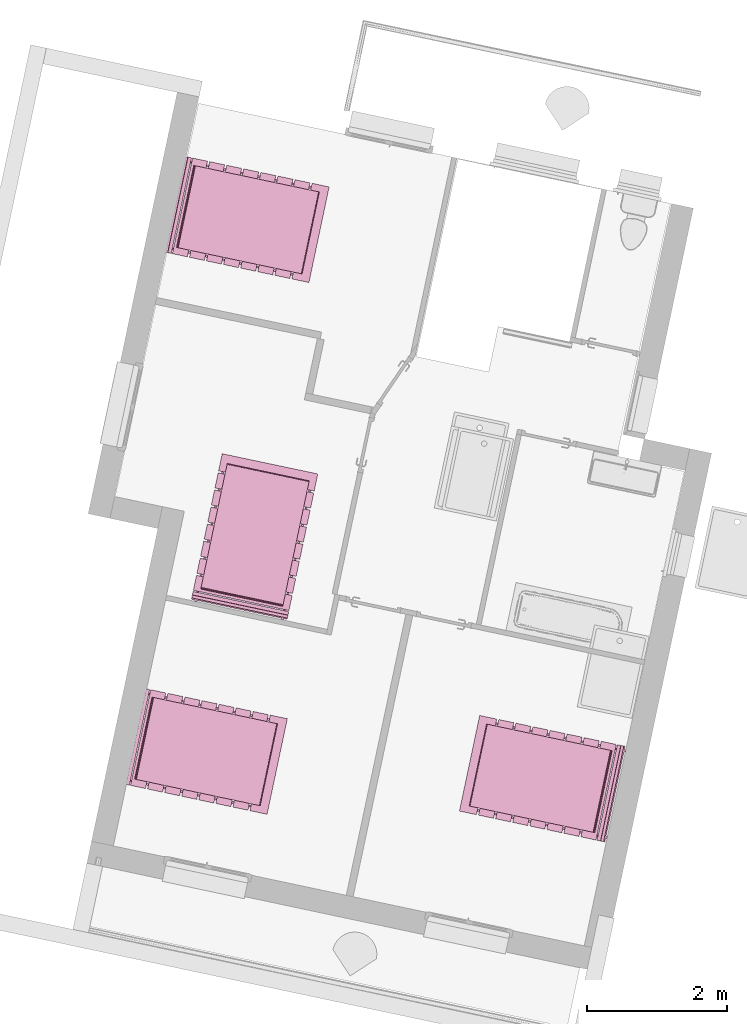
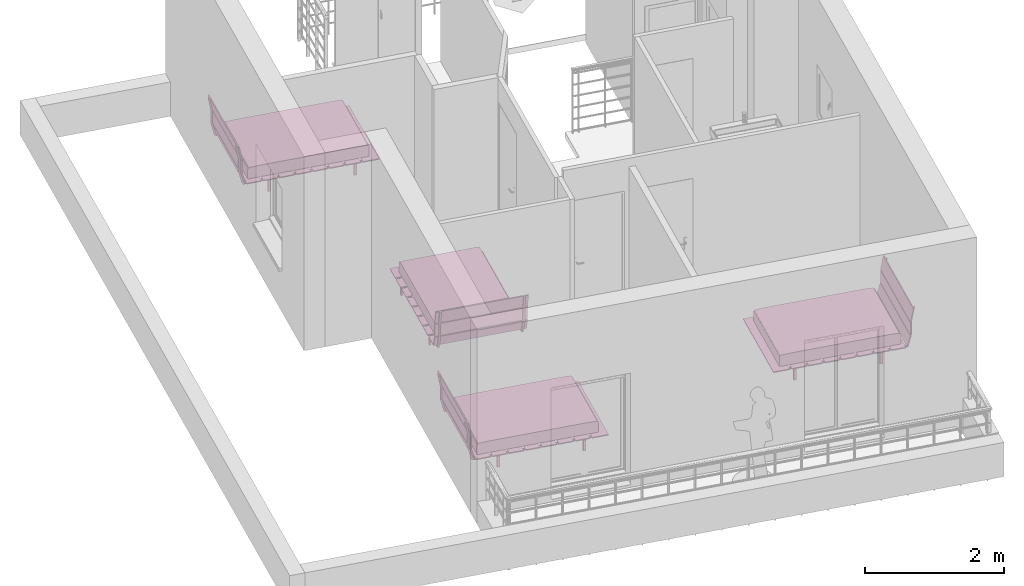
# One storey, part 17 of 18: 4 furnishings.
"""IFC2X3 building model written with IfcOpenShell, lengths in metres."""

from ifc_helpers import new_model, entity, si_unit, converted_unit, derived_unit, direction, frame, frame_2d, origin, origin_2d_with_axis, place, context, subcontext, project, spatial, polyline, circle_curve, parameter, trimmed, segment, composite_curve, rectangle, outline, extrude, source, transform, mapped, material, material_list, type_object, type_shapes, element, save


model = new_model("IFC2X3")

# Units and contexts
model_context = context("Model", 3, precision=1e-05, world=origin(), true_north=direction((6.12303176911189e-17, 1.0)))
body_context = subcontext(model_context, "Body", "Model", "MODEL_VIEW")
ifc_project = project(units=[si_unit("LENGTHUNIT", "METRE"), si_unit("AREAUNIT", "SQUARE_METRE"), si_unit("VOLUMEUNIT", "CUBIC_METRE"), converted_unit("PLANEANGLEUNIT", "DEGREE", entity("IfcRatioMeasure", 0.0174532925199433), si_unit("PLANEANGLEUNIT", "RADIAN"), dimensions=[0, 0, 0, 0, 0, 0, 0]), si_unit("MASSUNIT", "GRAM", prefix="KILO"), derived_unit("MASSDENSITYUNIT", [(si_unit("MASSUNIT", "GRAM", prefix="KILO"), 1), (si_unit("LENGTHUNIT", "METRE"), -3)]), si_unit("TIMEUNIT", "SECOND"), si_unit("FREQUENCYUNIT", "HERTZ"), si_unit("THERMODYNAMICTEMPERATUREUNIT", "DEGREE_CELSIUS"), derived_unit("THERMALTRANSMITTANCEUNIT", [(si_unit("MASSUNIT", "GRAM", prefix="KILO"), 1), (si_unit("THERMODYNAMICTEMPERATUREUNIT", "KELVIN"), -1), (si_unit("TIMEUNIT", "SECOND"), -3)]), derived_unit("VOLUMETRICFLOWRATEUNIT", [(si_unit("LENGTHUNIT", "METRE"), 3), (si_unit("TIMEUNIT", "SECOND"), -1)]), si_unit("ELECTRICCURRENTUNIT", "AMPERE"), si_unit("ELECTRICVOLTAGEUNIT", "VOLT"), si_unit("POWERUNIT", "WATT"), si_unit("FORCEUNIT", "NEWTON", prefix="KILO"), si_unit("ILLUMINANCEUNIT", "LUX"), si_unit("LUMINOUSFLUXUNIT", "LUMEN"), si_unit("LUMINOUSINTENSITYUNIT", "CANDELA"), derived_unit("USERDEFINED", [(si_unit("MASSUNIT", "GRAM", prefix="KILO"), -1), (si_unit("LENGTHUNIT", "METRE"), -2), (si_unit("TIMEUNIT", "SECOND"), 3), (si_unit("LUMINOUSFLUXUNIT", "LUMEN"), 1)]), derived_unit("LINEARVELOCITYUNIT", [(si_unit("LENGTHUNIT", "METRE"), 1), (si_unit("TIMEUNIT", "SECOND"), -1)]), si_unit("PRESSUREUNIT", "PASCAL"), derived_unit("USERDEFINED", [(si_unit("LENGTHUNIT", "METRE"), -2), (si_unit("MASSUNIT", "GRAM", prefix="KILO"), 1), (si_unit("TIMEUNIT", "SECOND"), -2)])], contexts=[model_context])

# Site, building, storey, space
site_placement = place(None, origin())
site = spatial("IfcSite", under=ifc_project, at=site_placement, Name="Default", CompositionType="ELEMENT")
building_placement = place(site_placement, origin())
building = spatial("IfcBuilding", under=site, at=building_placement, CompositionType="ELEMENT")
storey_placement = place(building_placement, frame((0.0, 0.0, 2.8)))
storey = spatial("IfcBuildingStorey", under=building, at=storey_placement, Name="ETAGE", CompositionType="ELEMENT", Elevation=2.8)
space_1_placement = place(storey_placement, origin())
space_1 = spatial("IfcSpace", under=storey, at=space_1_placement, Name="639", CompositionType="ELEMENT", InteriorOrExteriorSpace="INTERNAL")

# Furnishing
ifc_material_1 = material(Name="Textile - Bleu pâle")
ifc_material_2 = material(Name="Bois - Teck")
ifc_material_3 = material(Name="Plastique - Noir")
ifc_material_list_1 = material_list([ifc_material_1, ifc_material_2, ifc_material_3])
ifc_material_list_2 = material_list([ifc_material_1, ifc_material_2, ifc_material_3])
furniture_type = type_object("IfcFurnitureType", Name="1,40 mm x 2000 mm 2", material=ifc_material_list_2)
shared_shape = source(origin(), body_context, "Body", "SweptSolid", [
    extrude(outline(composite_curve([segment(polyline([(-0.755361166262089, -0.0846796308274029), (0.695178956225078, -0.0846796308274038)]), True, "CONTINUOUS"), segment(polyline([(0.695178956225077, -0.0846796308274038), (0.816394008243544, -0.078623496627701)]), True, "CONTINUOUS"), segment(polyline([(0.816394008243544, -0.078623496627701), (0.842657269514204, -0.0725673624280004)]), True, "CONTINUOUS"), segment(polyline([(0.842657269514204, -0.0725673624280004), (0.856799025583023, -0.0624738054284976)]), True, "CONTINUOUS"), segment(polyline([(0.856799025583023, -0.0624738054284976), (0.862859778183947, -0.0443054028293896)]), True, "CONTINUOUS"), segment(polyline([(0.862859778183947, -0.0443054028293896), (0.866900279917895, -0.0120060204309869)]), True, "CONTINUOUS"), segment(polyline([(0.866900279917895, -0.0120060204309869), (0.866900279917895, 0.0747985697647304)]), True, "CONTINUOUS"), segment(polyline([(0.866900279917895, 0.0747985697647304), (0.862859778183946, 0.105079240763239)]), True, "CONTINUOUS"), segment(polyline([(0.862859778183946, 0.105079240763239), (0.856799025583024, 0.113154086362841)]), True, "CONTINUOUS"), segment(polyline([(0.856799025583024, 0.113154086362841), (0.836596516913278, 0.117191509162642)]), True, "CONTINUOUS"), segment(polyline([(0.836596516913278, 0.117191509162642), (-0.953345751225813, 0.117191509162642)]), True, "CONTINUOUS"), segment(polyline([(-0.953345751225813, 0.117191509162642), (-0.969507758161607, 0.115172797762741)]), True, "CONTINUOUS"), segment(polyline([(-0.969507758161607, 0.115172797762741), (-0.971528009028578, 0.103060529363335)]), True, "CONTINUOUS"), segment(polyline([(-0.971528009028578, 0.103060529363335), (-0.971528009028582, -0.0160434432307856)]), True, "CONTINUOUS"), segment(trimmed(circle_curve(frame_2d((-0.76779044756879, -0.0160434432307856), x_axis=(-1.0, 0.0)), 0.203737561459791), [parameter(360.0)], [parameter(11.4298384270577)], True, "PARAMETER"), True, "CONTINUOUS"), segment(trimmed(circle_curve(frame_2d((-0.944467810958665, -0.0517636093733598), x_axis=(-1.0, 0.0)), 0.0234854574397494), [parameter(11.4298384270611)], [parameter(62.3518913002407)], True, "PARAMETER"), True, "CONTINUOUS"), segment(trimmed(circle_curve(frame_2d((-0.929629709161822, -0.0234388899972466), x_axis=(-1.0, 0.0)), 0.0554613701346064), [parameter(62.35189130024)], [parameter(84.2736549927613)], True, "PARAMETER"), True, "CONTINUOUS"), segment(trimmed(circle_curve(frame_2d((-0.809859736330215, 1.1709442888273), x_axis=(-1.0, 0.0)), 1.25583465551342), [parameter(84.2736549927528)], [parameter(86.5854437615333)], True, "PARAMETER"), True, "CONTINUOUS"), segment(polyline([(-0.884657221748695, -0.0826609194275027), (-0.755361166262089, -0.0846796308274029)]), True, "CONTINUOUS")], self_intersect=False)), frame((-0.6, 1.05656455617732, 0.367191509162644), z_axis=(1.0, 0.0, 0.0), x_axis=(0.0, -1.0, 0.0)), (0.0, 0.0, 1.0), 1.2),
    extrude(rectangle(XDim=1.4, YDim=0.249999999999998, at=origin_2d_with_axis()), frame((0.0, 2.02499620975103, 0.232311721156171), z_axis=(0.0, 0.0, 1.0), x_axis=(-1.0, 0.0, 0.0)), (0.0, 0.0, 1.0), 0.0176882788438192),
    extrude(outline(polyline([(-0.114793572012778, -0.00886960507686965), (0.115119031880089, -0.00886960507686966), (0.115119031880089, 0.00896042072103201), (-0.115444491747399, 0.00877878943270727), (-0.114793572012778, -0.00886960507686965)])), frame((-0.7, 0.051324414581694, 0.783374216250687), z_axis=(1.0, 0.0, 0.0), x_axis=(0.0, -0.182165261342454, 0.983267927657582)), (0.0, 0.0, 1.0), 1.4),
    extrude(rectangle(XDim=1.4, YDim=0.219999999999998, at=frame_2d((0.0, 1.38777878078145e-16), x_axis=(1.0, 0.0))), frame((0.0, 1.75999620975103, 0.232311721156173), z_axis=(0.0, 0.0, 1.0), x_axis=(-1.0, 0.0, 0.0)), (0.0, 0.0, 1.0), 0.0176882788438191),
    extrude(rectangle(XDim=1.4, YDim=0.219999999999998, at=frame_2d((0.0, -1.31838984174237e-16), x_axis=(1.0, 0.0))), frame((0.0, 1.50999620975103, 0.232311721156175), z_axis=(0.0, 0.0, 1.0), x_axis=(-1.0, 0.0, 0.0)), (0.0, 0.0, 1.0), 0.017688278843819),
    extrude(rectangle(XDim=1.4, YDim=0.219999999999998, at=frame_2d((0.0, -1.38777878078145e-16), x_axis=(1.0, 0.0))), frame((0.0, 1.25999620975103, 0.232311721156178), z_axis=(0.0, 0.0, 1.0), x_axis=(-1.0, 0.0, 0.0)), (0.0, 0.0, 1.0), 0.0176882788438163),
    extrude(rectangle(XDim=1.4, YDim=0.219999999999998, at=frame_2d((0.0, 6.93889390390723e-17), x_axis=(1.0, 0.0))), frame((0.0, 1.00999620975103, 0.232311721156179), z_axis=(0.0, 0.0, 1.0), x_axis=(-1.0, 0.0, 0.0)), (0.0, 0.0, 1.0), 0.0176882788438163),
    extrude(rectangle(XDim=1.4, YDim=0.22, at=origin_2d_with_axis()), frame((0.0, 0.759996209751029, 0.232311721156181), z_axis=(0.0, 0.0, 1.0), x_axis=(-1.0, 0.0, 0.0)), (0.0, 0.0, 1.0), 0.0176882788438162),
    extrude(rectangle(XDim=1.4, YDim=0.22, at=origin_2d_with_axis()), frame((0.0, 0.509996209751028, 0.232311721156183), z_axis=(0.0, 0.0, 1.0), x_axis=(-1.0, 0.0, 0.0)), (0.0, 0.0, 1.0), 0.0176882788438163),
    extrude(rectangle(XDim=1.4, YDim=0.22, at=origin_2d_with_axis()), frame((0.0, 0.259996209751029, 0.232311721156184), z_axis=(0.0, 0.0, 1.0), x_axis=(-1.0, 0.0, 0.0)), (0.0, 0.0, 1.0), 0.0176882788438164),
    extrude(rectangle(XDim=1.4, YDim=0.0183684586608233, at=origin_2d_with_axis()), frame((0.0, 0.0735868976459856, 0.443802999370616), z_axis=(0.0, 0.0, 1.0), x_axis=(-1.0, 0.0, 0.0)), (0.0, 0.0, 1.0), 0.214481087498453),
    extrude(outline(polyline([(-0.0941857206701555, -0.00889996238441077), (0.0936128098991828, -0.00889996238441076), (0.0943260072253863, 0.00869876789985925), (-0.0937530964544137, 0.00910115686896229), (-0.0941857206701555, -0.00889996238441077)])), frame((-0.7, 0.100341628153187, 0.340588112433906), z_axis=(1.0, 0.0, 0.0), x_axis=(0.0, -0.268983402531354, 0.96314481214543)), (0.0, 0.0, 1.0), 1.4),
    extrude(rectangle(XDim=0.0299999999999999, YDim=0.0421792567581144, at=frame_2d((0.0, -2.70616862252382e-16), x_axis=(1.0, 0.0))), frame((-0.634999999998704, 1.80439834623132, 0.0)), (0.0, 0.0, 1.0), 0.204645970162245),
    extrude(rectangle(XDim=0.0299999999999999, YDim=0.0421792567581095, at=frame_2d((0.0, -3.29597460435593e-17), x_axis=(1.0, 0.0))), frame((-0.634999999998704, 0.505017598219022, 0.0)), (0.0, 0.0, 1.0), 0.204645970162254),
    extrude(rectangle(XDim=0.0299999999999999, YDim=0.0421792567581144, at=origin_2d_with_axis()), frame((0.635000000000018, 1.80439834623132, 0.0), z_axis=(0.0, 0.0, 1.0), x_axis=(-1.0, 0.0, 0.0)), (0.0, 0.0, 1.0), 0.204645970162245),
    extrude(rectangle(XDim=0.0299999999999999, YDim=0.0421792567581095, at=frame_2d((0.0, -3.29597460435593e-17), x_axis=(1.0, 0.0))), frame((0.635000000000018, 0.505017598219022, 0.0), z_axis=(0.0, 0.0, 1.0), x_axis=(-1.0, 0.0, 0.0)), (0.0, 0.0, 1.0), 0.204645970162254),
    extrude(outline(composite_curve([segment(polyline([(-0.499010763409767, 0.346366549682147), (-0.499569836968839, 0.324560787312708)]), True, "CONTINUOUS"), segment(polyline([(-0.499569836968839, 0.324560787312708), (-0.2642053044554, 0.324063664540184)]), True, "CONTINUOUS"), segment(polyline([(-0.2642053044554, 0.324063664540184), (-0.0414406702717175, 0.365029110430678)]), True, "CONTINUOUS"), segment(polyline([(-0.0414406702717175, 0.365029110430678), (0.170125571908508, 0.346291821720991)]), True, "CONTINUOUS"), segment(polyline([(0.170125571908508, 0.346291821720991), (0.528537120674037, -1.59768807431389)]), True, "CONTINUOUS"), segment(polyline([(0.528537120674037, -1.59768807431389), (0.549932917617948, -1.56608457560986)]), True, "CONTINUOUS"), segment(polyline([(0.549932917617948, -1.56608457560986), (0.19740578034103, 0.350911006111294)]), True, "CONTINUOUS"), segment(trimmed(circle_curve(frame_2d((0.17103903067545, 0.346062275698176), x_axis=(0.180862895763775, -0.983508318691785)), 0.0268088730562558), [parameter(90.0)], [parameter(167.367566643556)], True, "PARAMETER"), True, "CONTINUOUS"), segment(polyline([(0.172073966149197, 0.372851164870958), (-0.0455420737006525, 0.387331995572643)]), True, "CONTINUOUS"), segment(polyline([(-0.0455420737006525, 0.387331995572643), (-0.268306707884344, 0.346366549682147)]), True, "CONTINUOUS"), segment(polyline([(-0.268306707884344, 0.346366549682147), (-0.499010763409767, 0.346366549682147)]), True, "CONTINUOUS")], self_intersect=False)), frame((-0.649999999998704, 0.430906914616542, 0.462262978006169), z_axis=(-1.0, 0.0, 0.0), x_axis=(0.0, 0.180862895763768, -0.983508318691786)), (0.0, 0.0, -1.0), 0.0299999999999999),
    extrude(outline(composite_curve([segment(polyline([(-0.499010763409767, 0.346366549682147), (-0.49956983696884, 0.324560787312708)]), True, "CONTINUOUS"), segment(polyline([(-0.49956983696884, 0.324560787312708), (-0.2642053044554, 0.324063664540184)]), True, "CONTINUOUS"), segment(polyline([(-0.2642053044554, 0.324063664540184), (-0.0414406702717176, 0.365029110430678)]), True, "CONTINUOUS"), segment(polyline([(-0.0414406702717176, 0.365029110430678), (0.170125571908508, 0.346291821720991)]), True, "CONTINUOUS"), segment(polyline([(0.170125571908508, 0.346291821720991), (0.528537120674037, -1.59768807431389)]), True, "CONTINUOUS"), segment(polyline([(0.528537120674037, -1.59768807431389), (0.549932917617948, -1.56608457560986)]), True, "CONTINUOUS"), segment(polyline([(0.549932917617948, -1.56608457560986), (0.19740578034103, 0.350911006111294)]), True, "CONTINUOUS"), segment(trimmed(circle_curve(frame_2d((0.17103903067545, 0.346062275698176), x_axis=(0.180862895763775, -0.983508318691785)), 0.0268088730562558), [parameter(90.0)], [parameter(167.367566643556)], True, "PARAMETER"), True, "CONTINUOUS"), segment(polyline([(0.172073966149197, 0.372851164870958), (-0.0455420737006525, 0.387331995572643)]), True, "CONTINUOUS"), segment(polyline([(-0.0455420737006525, 0.387331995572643), (-0.268306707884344, 0.346366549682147)]), True, "CONTINUOUS"), segment(polyline([(-0.268306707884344, 0.346366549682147), (-0.499010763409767, 0.346366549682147)]), True, "CONTINUOUS")], self_intersect=False)), frame((0.620000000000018, 0.430906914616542, 0.462262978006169), z_axis=(-1.0, 0.0, 0.0), x_axis=(0.0, 0.180862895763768, -0.983508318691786)), (0.0, 0.0, -1.0), 0.0299999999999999),
])
type_shapes(furniture_type, [shared_shape])
furnishing_1_placement = place(space_1_placement, frame((-11.4310282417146, 76.5465486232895, 0.1), z_axis=(0.0, 0.0, 1.0), x_axis=(0.207484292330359, 0.978238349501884, 0.0)))
element("IfcFurnishingElement", 1, at=furnishing_1_placement, inside=space_1, type_object=furniture_type, material=ifc_material_list_1, Name="Lit à lattes:1,40 mm x 2000 mm 2", ObjectType="Lit à lattes:1,40 mm x 2000 mm 2", context=body_context, shape_type="MappedRepresentation", body=[
    mapped(shared_shape, transform((0.0, 0.0, 0.0), scale=1.0)),
])

# Space
space_2_placement = place(storey_placement, origin())
space_2 = spatial("IfcSpace", under=storey, at=space_2_placement, Name="638", CompositionType="ELEMENT", InteriorOrExteriorSpace="INTERNAL")

# Furnishing
ifc_material_list_3 = material_list([ifc_material_1, ifc_material_2, ifc_material_3])
furnishing_2_placement = place(space_2_placement, frame((-18.3922686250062, 77.3922017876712, 0.0), z_axis=(0.0, 0.0, 1.0), x_axis=(-0.20748429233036, -0.978238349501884, 0.0)))
element("IfcFurnishingElement", 2, at=furnishing_2_placement, inside=space_2, type_object=furniture_type, material=ifc_material_list_3, Name="Lit à lattes:1,40 mm x 2000 mm 2", ObjectType="Lit à lattes:1,40 mm x 2000 mm 2", context=body_context, shape_type="MappedRepresentation", body=[
    mapped(shared_shape, transform((0.0, 0.0, 0.0), scale=1.0)),
])

# Space
space_3_placement = place(storey_placement, origin())
space_3 = spatial("IfcSpace", under=storey, at=space_3_placement, Name="637", CompositionType="ELEMENT", InteriorOrExteriorSpace="INTERNAL")

# Furnishing
ifc_material_list_4 = material_list([ifc_material_1, ifc_material_2, ifc_material_3])
furnishing_3_placement = place(space_3_placement, frame((-17.7932894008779, 85.007725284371, 0.0), z_axis=(0.0, 0.0, 1.0), x_axis=(-0.206544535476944, -0.978437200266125, 0.0)))
element("IfcFurnishingElement", 3, at=furnishing_3_placement, inside=space_3, type_object=furniture_type, material=ifc_material_list_4, Name="Lit à lattes:1,40 mm x 2000 mm 2", ObjectType="Lit à lattes:1,40 mm x 2000 mm 2", context=body_context, shape_type="MappedRepresentation", body=[
    mapped(shared_shape, transform((0.0, 0.0, 0.0), scale=1.0)),
])

# Space
space_4_placement = place(storey_placement, origin())
space_4 = spatial("IfcSpace", under=storey, at=space_4_placement, Name="644", CompositionType="ELEMENT", InteriorOrExteriorSpace="INTERNAL")

# Furnishing
ifc_material_list_5 = material_list([ifc_material_1, ifc_material_2, ifc_material_3])
furnishing_4_placement = place(space_4_placement, frame((-16.8364879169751, 79.1783087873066, 0.0), z_axis=(0.0, 0.0, 1.0), x_axis=(0.978437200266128, -0.206544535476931, 0.0)))
element("IfcFurnishingElement", 4, at=furnishing_4_placement, inside=space_4, type_object=furniture_type, material=ifc_material_list_5, Name="Lit à lattes:1,40 mm x 2000 mm 2", ObjectType="Lit à lattes:1,40 mm x 2000 mm 2", context=body_context, shape_type="MappedRepresentation", body=[
    mapped(shared_shape, transform((0.0, 0.0, 0.0), scale=1.0)),
])

save(model, "model.ifc")
